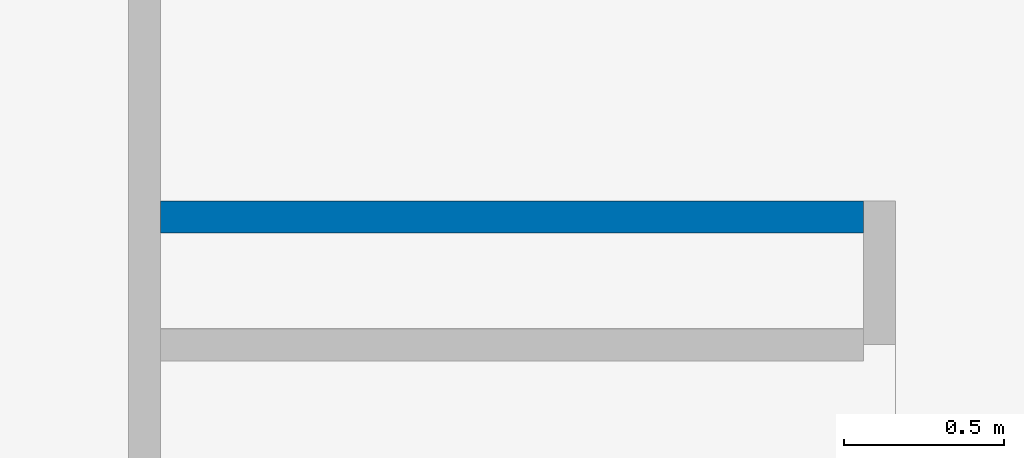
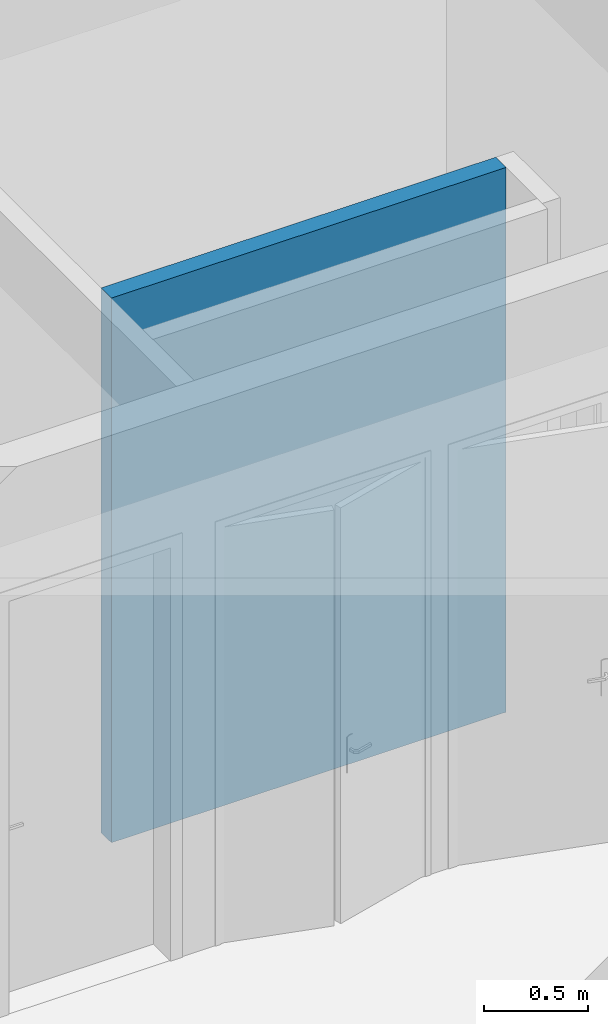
# One storey, part 79 of 106: 1 wall.
"""IFC2X3 building model written with IfcOpenShell, lengths in centimetres."""

from ifc_helpers import new_model, entity, si_unit, converted_unit, derived_unit, direction, frame, frame_2d, origin, place, context, subcontext, project, spatial, polyline, rectangle, extrude, clip, bounded_halfspace, material, layer, layer_set, layer_usage, type_object, element, save


model = new_model("IFC2X3")

# Units and contexts
model_context = context("Model", 3, precision=0.001, world=origin(), true_north=direction((6.12303176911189e-17, 1.0)))
body_context = subcontext(model_context, "Body", "Model", "MODEL_VIEW")
ifc_project = project(units=[si_unit("LENGTHUNIT", "METRE", prefix="CENTI"), si_unit("AREAUNIT", "SQUARE_METRE"), si_unit("VOLUMEUNIT", "CUBIC_METRE"), converted_unit("PLANEANGLEUNIT", "DEGREE", entity("IfcRatioMeasure", 0.0174532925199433), si_unit("PLANEANGLEUNIT", "RADIAN"), dimensions=[0, 0, 0, 0, 0, 0, 0]), si_unit("MASSUNIT", "GRAM", prefix="KILO"), derived_unit("MASSDENSITYUNIT", [(si_unit("MASSUNIT", "GRAM", prefix="KILO"), 1), (si_unit("LENGTHUNIT", "METRE"), -3)]), si_unit("TIMEUNIT", "SECOND"), si_unit("FREQUENCYUNIT", "HERTZ"), si_unit("THERMODYNAMICTEMPERATUREUNIT", "DEGREE_CELSIUS"), derived_unit("THERMALTRANSMITTANCEUNIT", [(si_unit("MASSUNIT", "GRAM", prefix="KILO"), 1), (si_unit("THERMODYNAMICTEMPERATUREUNIT", "KELVIN"), -1), (si_unit("TIMEUNIT", "SECOND"), -3)]), derived_unit("VOLUMETRICFLOWRATEUNIT", [(si_unit("LENGTHUNIT", "METRE"), 3), (si_unit("TIMEUNIT", "SECOND"), -1)]), si_unit("ELECTRICCURRENTUNIT", "AMPERE"), si_unit("ELECTRICVOLTAGEUNIT", "VOLT"), si_unit("POWERUNIT", "WATT"), si_unit("FORCEUNIT", "NEWTON", prefix="KILO"), si_unit("ILLUMINANCEUNIT", "LUX"), si_unit("LUMINOUSFLUXUNIT", "LUMEN"), si_unit("LUMINOUSINTENSITYUNIT", "CANDELA"), derived_unit("USERDEFINED", [(si_unit("MASSUNIT", "GRAM", prefix="KILO"), -1), (si_unit("LENGTHUNIT", "METRE"), -2), (si_unit("TIMEUNIT", "SECOND"), 3), (si_unit("LUMINOUSFLUXUNIT", "LUMEN"), 1)]), derived_unit("LINEARVELOCITYUNIT", [(si_unit("LENGTHUNIT", "METRE"), 1), (si_unit("TIMEUNIT", "SECOND"), -1)]), si_unit("PRESSUREUNIT", "PASCAL"), derived_unit("USERDEFINED", [(si_unit("LENGTHUNIT", "METRE"), -2), (si_unit("MASSUNIT", "GRAM", prefix="KILO"), 1), (si_unit("TIMEUNIT", "SECOND"), -2)])], contexts=[model_context])

# Site, building, storey
site_placement = place(None, frame((-2781.94577612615, 7442.24238424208, 0.0)))
site = spatial("IfcSite", under=ifc_project, at=site_placement, Name="Default", CompositionType="ELEMENT")
building_placement = place(site_placement, origin())
building = spatial("IfcBuilding", under=site, at=building_placement, CompositionType="ELEMENT")
storey_placement = place(building_placement, frame((0.0, 0.0, 422.0)))
storey = spatial("IfcBuildingStorey", under=building, at=storey_placement, Name="Toiture - Cuisine", CompositionType="ELEMENT", Elevation=421.999999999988)

# Wall
ifc_material_1 = material(Name="01 - Enduit/Plâtre")
ifc_layer_1 = layer(ifc_material_1, 1.3)
ifc_material_2 = material(Name="00 - Isolant")
ifc_layer_2 = layer(ifc_material_2, 7.4)
ifc_layer_3 = layer(ifc_material_1, 1.3)
ifc_layer_set = layer_set([ifc_layer_1, ifc_layer_2, ifc_layer_3], Name="Mur de base:06 - cloisons - Ba13 10cm")
ifc_layer_usage = layer_usage(ifc_layer_set, "AXIS2", "NEGATIVE", 5.0)
wall_type = type_object("IfcWallType", Name="Mur de base:06 - cloisons - Ba13 10cm", PredefinedType="STANDARD", material=ifc_layer_set)
wall_placement = place(building_placement, frame((-1969.49988284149, -1825.07903364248, 422.0), z_axis=(0.0, 0.0, 1.0), x_axis=(-1.0, 0.0, 0.0)))
element("IfcWallStandardCase", 1, at=wall_placement, inside=storey, type_object=wall_type, material=ifc_layer_usage, Name="Mur de base:06 - cloisons - Ba13 10cm", ObjectType="Mur de base:06 - cloisons - Ba13 10cm", context=body_context, shape_type="Clipping", body=[
    clip(extrude(rectangle(XDim=219.999999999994, YDim=9.99999999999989, at=frame_2d((109.999999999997, -1.37667655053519e-14), x_axis=(-1.0, 0.0))), origin(), (0.0, 0.0, 1.0), 321.0), bounded_halfspace(frame((0.0, -5.0, 321.0), z_axis=(0.0, 0.0, -1.0), x_axis=(0.0, -1.0, 0.0)), True, frame((0.0, -5.0, 321.0)), polyline([(0.0, 0.0), (220.0, 0.0), (220.0, 10.0), (0.0, 10.0), (0.0, 0.0)]))),
])

save(model, "model.ifc")
